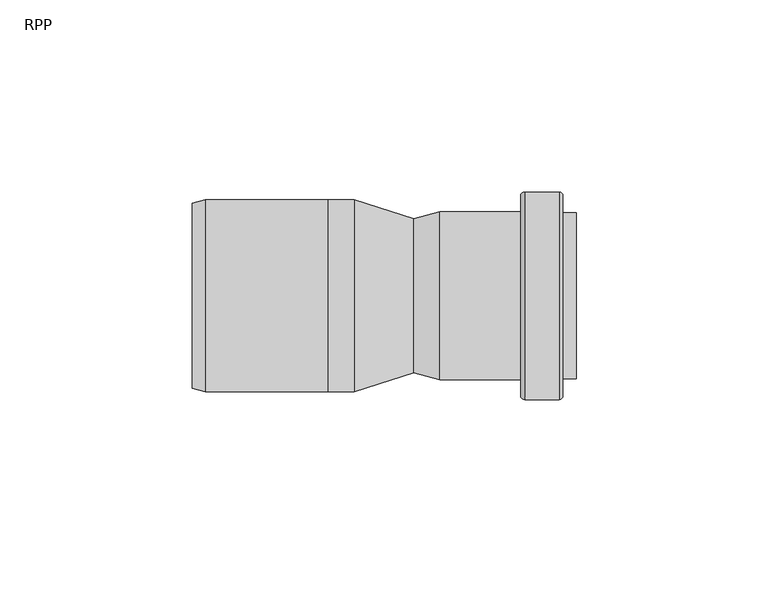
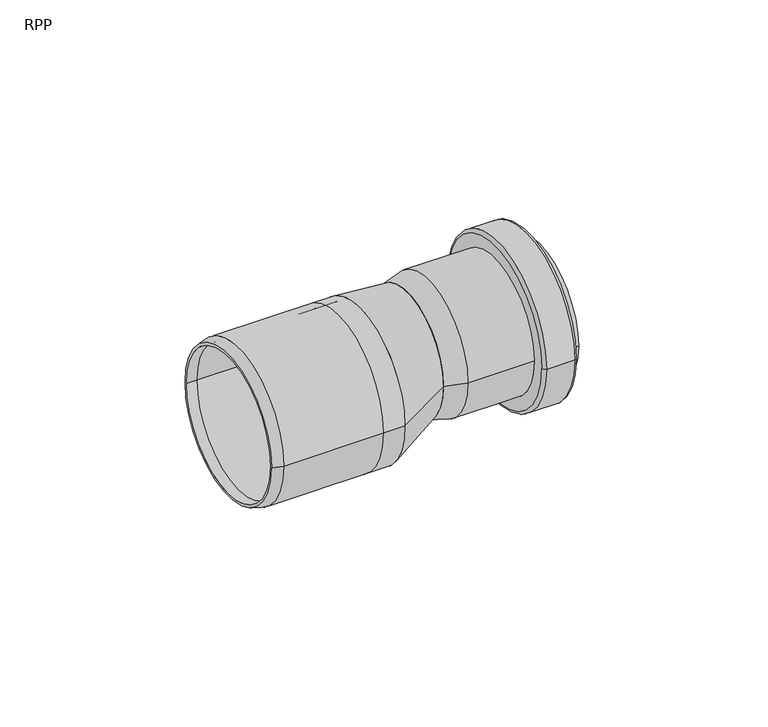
"""IFC4 building model written with IfcOpenShell, lengths in millimetres: pipe fitting geometry, RAUPIANO PLUS Reducer : RPP."""

from ifc_helpers import new_model, si_unit, point, frame, origin, place, context, project, spatial, polyline, circle_curve, ellipse_curve, trimmed, source, transform, mapped, element, save
from ifc_brep_helpers import plane_surface, cylinder_surface, revolved_surface, spline_surface, advanced_brep


def rpp_9f24d9c4(model_context):
    return source(origin(), model_context, "Body", "AdvancedBrep", [
        advanced_brep(
        [(35.6, 21.8220545, 5.0), (35.6, -21.8220545, 5.0), (14.5, -21.8220545, 5.0), (14.5, 21.8220545, 5.0), (50.0, 21.6076952, 5.0), (50.0, -21.6076952, 5.0), (46.6, -21.6076952, 5.0), (46.6, 21.6076952, 5.0), (46.6, 20.0220545, 5.0), (46.6, -20.0220545, 5.0), (50.0, -20.0220545, 5.0), (50.0, 20.0220545, 5.0), (14.5, 20.0220545, 5.0), (14.5, -20.0220545, 5.0), (7.7, 18.2, 5.0), (7.7, -18.2, 5.0), (7.7, -20.0, 5.0), (7.7, 20.0, 5.0), (36.6, 27.0220545, 5.0), (36.6, -27.0220545, 5.0), (35.6, -26.0220545, 5.0), (35.6, 26.0220545, 5.0), (45.6, 27.0220545, 5.0), (45.6, -27.0220545, 5.0), (46.6, 26.0220545, 5.0), (46.6, -26.0220545, 5.0)],
        [
            (0, 1, circle_curve(frame((35.6, 0.0, 5.0), z_axis=(-1.0, 0.0, 0.0), x_axis=(0.0, -1.0, 0.0)), 21.8220545)),
            (1, 2),
            (2, 3, circle_curve(frame((14.5, 0.0, 5.0), z_axis=(1.0, 0.0, 0.0), x_axis=(0.0, -1.0, 0.0)), 21.8220545)),
            (3, 0),
            (4, 5, circle_curve(frame((50.0, 0.0, 5.0), z_axis=(-1.0, 0.0, 0.0), x_axis=(0.0, -1.0, 0.0)), 21.6076952)),
            (5, 6),
            (6, 7, circle_curve(frame((46.6, 0.0, 5.0), z_axis=(1.0, 0.0, 0.0), x_axis=(0.0, -1.0, 0.0)), 21.6076952)),
            (7, 4),
            (8, 9, circle_curve(frame((46.6, 0.0, 5.0), z_axis=(-1.0, 0.0, 0.0), x_axis=(0.0, -1.0, 0.0)), 20.0220545)),
            (9, 10),
            (10, 11, circle_curve(frame((50.0, 0.0, 5.0), z_axis=(1.0, 0.0, 0.0), x_axis=(0.0, -1.0, 0.0)), 20.0220545)),
            (11, 8),
            (12, 13, circle_curve(frame((14.5, 0.0, 5.0), z_axis=(-1.0, 0.0, 0.0), x_axis=(0.0, -1.0, 0.0)), 20.0220545)),
            (13, 9),
            (8, 12),
            (14, 15, circle_curve(frame((7.7, 0.0, 5.0), z_axis=(-1.0, 0.0, 0.0), x_axis=(0.0, -1.0, 0.0)), 18.2)),
            (15, 13),
            (12, 14),
            (2, 16),
            (16, 17, circle_curve(frame((7.7, 0.0, 5.0), z_axis=(1.0, 0.0, 0.0), x_axis=(0.0, -1.0, 0.0)), 20.0)),
            (17, 3),
            (1, 0, circle_curve(frame((35.6, 0.0, 5.0), z_axis=(-1.0, 0.0, 0.0), x_axis=(0.0, 1.0, 0.0)), 21.8220545)),
            (3, 2, circle_curve(frame((14.5, 0.0, 5.0), z_axis=(1.0, 0.0, 0.0), x_axis=(0.0, 1.0, 0.0)), 21.8220545)),
            (5, 4, circle_curve(frame((50.0, 0.0, 5.0), z_axis=(-1.0, 0.0, 0.0), x_axis=(0.0, 1.0, 0.0)), 21.6076952)),
            (7, 6, circle_curve(frame((46.6, 0.0, 5.0), z_axis=(1.0, 0.0, 0.0), x_axis=(0.0, 1.0, 0.0)), 21.6076952)),
            (10, 11, circle_curve(frame((50.0, 0.0, 5.0), z_axis=(-1.0, 0.0, 0.0), x_axis=(0.0, 1.0, 0.0)), 20.0220545)),
            (9, 8, circle_curve(frame((46.6, 0.0, 5.0), z_axis=(-1.0, 0.0, 0.0), x_axis=(0.0, 1.0, 0.0)), 20.0220545)),
            (13, 12, circle_curve(frame((14.5, 0.0, 5.0), z_axis=(-1.0, 0.0, 0.0), x_axis=(0.0, 1.0, 0.0)), 20.0220545)),
            (15, 14, circle_curve(frame((7.7, 0.0, 5.0), z_axis=(-1.0, 0.0, 0.0), x_axis=(0.0, 1.0, 0.0)), 18.2)),
            (17, 16, circle_curve(frame((7.7, 0.0, 5.0), z_axis=(1.0, 0.0, 0.0), x_axis=(0.0, 1.0, 0.0)), 20.0)),
            (18, 19, circle_curve(frame((36.6, 0.0, 5.0), z_axis=(-1.0, 0.0, 0.0), x_axis=(0.0, -1.0, 0.0)), 27.0220545)),
            (19, 20, circle_curve(frame((36.6, -26.0220545, 5.0), z_axis=(0.0, 0.0, -1.0), x_axis=(1.0, 0.0, 0.0)), 1.0)),
            (20, 21, circle_curve(frame((35.6, 0.0, 5.0), z_axis=(1.0, 0.0, 0.0), x_axis=(0.0, -1.0, 0.0)), 26.0220545)),
            (21, 18, circle_curve(frame((36.6, 26.0220545, 5.0), z_axis=(0.0, 0.0, -1.0), x_axis=(1.0, 0.0, 0.0)), 1.0)),
            (22, 23, circle_curve(frame((45.6, 0.0, 5.0), z_axis=(-1.0, 0.0, 0.0), x_axis=(0.0, -1.0, 0.0)), 27.0220545)),
            (23, 19),
            (18, 22),
            (24, 25, circle_curve(frame((46.6, 0.0, 5.0), z_axis=(-1.0, 0.0, 0.0), x_axis=(0.0, -1.0, 0.0)), 26.0220545)),
            (25, 23, circle_curve(frame((45.6, -26.0220545, 5.0), z_axis=(0.0, 0.0, -1.0), x_axis=(1.0, 0.0, 0.0)), 1.0)),
            (22, 24, circle_curve(frame((45.6, 26.0220545, 5.0), z_axis=(0.0, 0.0, -1.0), x_axis=(1.0, 0.0, 0.0)), 1.0)),
            (20, 21, circle_curve(frame((35.6, 0.0, 5.0), z_axis=(-1.0, 0.0, 0.0), x_axis=(0.0, 1.0, 0.0)), 26.0220545)),
            (19, 18, circle_curve(frame((36.6, 0.0, 5.0), z_axis=(-1.0, 0.0, 0.0), x_axis=(0.0, 1.0, 0.0)), 27.0220545)),
            (23, 22, circle_curve(frame((45.6, 0.0, 5.0), z_axis=(-1.0, 0.0, 0.0), x_axis=(0.0, 1.0, 0.0)), 27.0220545)),
            (25, 24, circle_curve(frame((46.6, 0.0, 5.0), z_axis=(-1.0, 0.0, 0.0), x_axis=(0.0, 1.0, 0.0)), 26.0220545)),
        ],
        [
            cylinder_surface(frame((0.0, 0.0, 5.0), z_axis=(1.0, 0.0, 0.0), x_axis=(0.0, -1.0, 0.0)), 21.8220545),
            cylinder_surface(frame((0.0, 0.0, 5.0), z_axis=(1.0, 0.0, 0.0), x_axis=(0.0, -1.0, 0.0)), 21.6076952),
            revolved_surface(polyline([(50.0, -20.0220545, 5.0), (46.6, -20.0220545, 5.0)]), (0.0, 0.0, 5.0), (1.0, 0.0, 0.0)),
            revolved_surface(polyline([(46.6, -20.0220545, 5.0), (14.5, -20.0220545, 5.0)]), (0.0, 0.0, 5.0), (1.0, 0.0, 0.0)),
            revolved_surface(polyline([(14.5, -20.0220545, 5.0), (7.7, -18.2, 5.0)]), (0.0, 0.0, 5.0), (1.0, 0.0, 0.0)),
            revolved_surface(polyline([(7.7, -20.0, 5.0), (14.5, -21.8220545, 5.0)]), (0.0, 0.0, 5.0), (1.0, 0.0, 0.0)),
            cylinder_surface(frame((0.0, 0.0, 5.0), z_axis=(1.0, 0.0, 0.0), x_axis=(0.0, 1.0, 0.0)), 21.8220545),
            cylinder_surface(frame((0.0, 0.0, 5.0), z_axis=(1.0, 0.0, 0.0), x_axis=(0.0, 1.0, 0.0)), 21.6076952),
            plane_surface(frame((50.0, 0.0, 5.0), z_axis=(1.0, 0.0, 0.0), x_axis=(0.0, 1.0, 0.0))),
            revolved_surface(polyline([(50.0, 20.0220545, 5.0), (46.6, 20.0220545, 5.0)]), (0.0, 0.0, 5.0), (1.0, 0.0, 0.0)),
            revolved_surface(polyline([(46.6, 20.0220545, 5.0), (14.5, 20.0220545, 5.0)]), (0.0, 0.0, 5.0), (1.0, 0.0, 0.0)),
            revolved_surface(polyline([(14.5, 20.0220545, 5.0), (7.7, 18.2, 5.0)]), (0.0, 0.0, 5.0), (1.0, 0.0, 0.0)),
            revolved_surface(polyline([(7.7, 20.0, 5.0), (14.5, 21.8220545, 5.0)]), (0.0, 0.0, 5.0), (1.0, 0.0, 0.0)),
            revolved_surface(trimmed(ellipse_curve(frame((36.6, -26.0220545, 5.0), z_axis=(0.0, 0.0, 1.0), x_axis=(1.0, 0.0, 0.0)), 1.0, 1.0), [point((35.6, -26.0220545, 5.0))], [point((36.6, -27.0220545, 5.0))], True, "CARTESIAN"), (0.0, 0.0, 5.0), (1.0, 0.0, 0.0)),
            cylinder_surface(frame((0.0, 0.0, 5.0), z_axis=(1.0, 0.0, 0.0), x_axis=(0.0, -1.0, 0.0)), 27.0220545),
            revolved_surface(trimmed(ellipse_curve(frame((45.6, -26.0220545, 5.0), z_axis=(0.0, 0.0, 1.0), x_axis=(1.0, 0.0, 0.0)), 1.0, 1.0), [point((45.6, -27.0220545, 5.0))], [point((46.6, -26.0220545, 5.0))], True, "CARTESIAN"), (0.0, 0.0, 5.0), (1.0, 0.0, 0.0)),
            plane_surface(frame((35.6, 0.0, 5.0), z_axis=(-1.0, 0.0, 0.0), x_axis=(0.0, 1.0, 0.0))),
            revolved_surface(trimmed(ellipse_curve(frame((36.6, 26.0220545, 5.0), z_axis=(0.0, 0.0, -1.0), x_axis=(1.0, 0.0, 0.0)), 1.0, 1.0), [point((35.6, 26.0220545, 5.0))], [point((36.6, 27.0220545, 5.0))], True, "CARTESIAN"), (0.0, 0.0, 5.0), (1.0, 0.0, 0.0)),
            cylinder_surface(frame((0.0, 0.0, 5.0), z_axis=(1.0, 0.0, 0.0), x_axis=(0.0, 1.0, 0.0)), 27.0220545),
            revolved_surface(trimmed(ellipse_curve(frame((45.6, 26.0220545, 5.0), z_axis=(0.0, 0.0, -1.0), x_axis=(1.0, 0.0, 0.0)), 1.0, 1.0), [point((45.6, 27.0220545, 5.0))], [point((46.6, 26.0220545, 5.0))], True, "CARTESIAN"), (0.0, 0.0, 5.0), (1.0, 0.0, 0.0)),
            plane_surface(frame((46.6, 0.0, 5.0), z_axis=(1.0, 0.0, 0.0), x_axis=(0.0, 1.0, 0.0))),
            plane_surface(frame((7.7, 0.0, 5.0), z_axis=(-1.0, 0.0, 0.0), x_axis=(0.0, 1.0, 0.0))),
        ],
        [
            (0, [[1, 2, 3, 4]]),
            (1, [[5, 6, 7, 8]]),
            (2, [[9, 10, 11, 12]]),
            (3, [[13, 14, -9, 15]]),
            (4, [[16, 17, -13, 18]]),
            (5, [[-3, 19, 20, 21]]),
            (6, [[22, -4, 23, -2]]),
            (7, [[24, -8, 25, -6]]),
            (8, [[-24, -5], [26, -11]]),
            (9, [[27, -12, -26, -10]]),
            (10, [[28, -15, -27, -14]]),
            (11, [[29, -18, -28, -17]]),
            (12, [[-23, -21, 30, -19]]),
            (13, [[31, 32, 33, 34]]),
            (14, [[35, 36, -31, 37]]),
            (15, [[38, 39, -35, 40]]),
            (16, [[41, -33], [-22, -1]]),
            (17, [[42, -34, -41, -32]]),
            (18, [[43, -37, -42, -36]]),
            (19, [[44, -40, -43, -39]]),
            (20, [[-44, -38], [-25, -7]]),
            (21, [[-30, -20], [-29, -16]]),
        ],
    ),
        advanced_brep(
        [(-7.7, 25.0, 0.0), (-7.7, -25.0, 0.0), (-14.5, -25.0, 0.0), (-14.5, 25.0, 0.0), (-14.5, 23.2, 0.0), (-14.5, -23.2, 0.0), (-7.7, -23.2, 0.0), (-7.7, 23.2, 0.0), (-46.6, 23.2, 0.0), (-46.6, -23.2, 0.0), (-50.0, 23.2, 0.0), (-50.0, -23.2, 0.0), (-46.6, 25.0, 0.0), (-46.6, -25.0, 0.0), (-50.0, -24.0889727, 0.0), (-50.0, 24.0889727, 0.0)],
        [
            (0, 1, circle_curve(frame((-7.7, 0.0, 0.0), z_axis=(-1.0, 0.0, 0.0), x_axis=(0.0, -1.0, 0.0)), 25.0)),
            (1, 2),
            (2, 3, circle_curve(frame((-14.5, 0.0, 0.0), z_axis=(1.0, 0.0, 0.0), x_axis=(0.0, -1.0, 0.0)), 25.0)),
            (3, 0),
            (4, 5, circle_curve(frame((-14.5, 0.0, 0.0), z_axis=(-1.0, 0.0, 0.0), x_axis=(0.0, -1.0, 0.0)), 23.2)),
            (5, 6),
            (6, 7, circle_curve(frame((-7.7, 0.0, 0.0), z_axis=(1.0, 0.0, 0.0), x_axis=(0.0, -1.0, 0.0)), 23.2)),
            (7, 4),
            (8, 9, circle_curve(frame((-46.6, 0.0, 0.0), z_axis=(-1.0, 0.0, 0.0), x_axis=(0.0, -1.0, 0.0)), 23.2)),
            (9, 5),
            (4, 8),
            (10, 11, circle_curve(frame((-50.0, 0.0, 0.0), z_axis=(-1.0, 0.0, 0.0), x_axis=(0.0, -1.0, 0.0)), 23.2)),
            (11, 9),
            (8, 10),
            (12, 13, circle_curve(frame((-46.6, 0.0, 0.0), z_axis=(-1.0, 0.0, 0.0), x_axis=(0.0, -1.0, 0.0)), 25.0)),
            (13, 14),
            (14, 15, circle_curve(frame((-50.0, 0.0, 0.0), z_axis=(1.0, 0.0, 0.0), x_axis=(0.0, -1.0, 0.0)), 24.0889727)),
            (15, 12),
            (2, 13),
            (12, 3),
            (1, 0, circle_curve(frame((-7.7, 0.0, 0.0), z_axis=(-1.0, 0.0, 0.0), x_axis=(0.0, 1.0, 0.0)), 25.0)),
            (3, 2, circle_curve(frame((-14.5, 0.0, 0.0), z_axis=(1.0, 0.0, 0.0), x_axis=(0.0, 1.0, 0.0)), 25.0)),
            (6, 7, circle_curve(frame((-7.7, 0.0, 0.0), z_axis=(-1.0, 0.0, 0.0), x_axis=(0.0, 1.0, 0.0)), 23.2)),
            (5, 4, circle_curve(frame((-14.5, 0.0, 0.0), z_axis=(-1.0, 0.0, 0.0), x_axis=(0.0, 1.0, 0.0)), 23.2)),
            (9, 8, circle_curve(frame((-46.6, 0.0, 0.0), z_axis=(-1.0, 0.0, 0.0), x_axis=(0.0, 1.0, 0.0)), 23.2)),
            (11, 10, circle_curve(frame((-50.0, 0.0, 0.0), z_axis=(-1.0, 0.0, 0.0), x_axis=(0.0, 1.0, 0.0)), 23.2)),
            (14, 15, circle_curve(frame((-50.0, 0.0, 0.0), z_axis=(-1.0, 0.0, 0.0), x_axis=(0.0, 1.0, 0.0)), 24.0889727)),
            (13, 12, circle_curve(frame((-46.6, 0.0, 0.0), z_axis=(-1.0, 0.0, 0.0), x_axis=(0.0, 1.0, 0.0)), 25.0)),
        ],
        [
            cylinder_surface(frame((0.0, 0.0, 0.0), z_axis=(1.0, 0.0, 0.0), x_axis=(0.0, -1.0, 0.0)), 25.0),
            revolved_surface(polyline([(-7.7, -23.2, 0.0), (-14.5, -23.2, 0.0)]), (0.0, 0.0, 0.0), (1.0, 0.0, 0.0)),
            revolved_surface(polyline([(-14.5, -23.2, 0.0), (-46.6, -23.2, 0.0)]), (0.0, 0.0, 0.0), (1.0, 0.0, 0.0)),
            revolved_surface(polyline([(-46.6, -23.2, 0.0), (-50.0, -23.2, 0.0)]), (0.0, 0.0, 0.0), (1.0, 0.0, 0.0)),
            revolved_surface(polyline([(-50.0, -24.0889727, 0.0), (-46.6, -25.0, 0.0)]), (0.0, 0.0, 0.0), (1.0, 0.0, 0.0)),
            cylinder_surface(frame((0.0, 0.0, 0.0), z_axis=(1.0, 0.0, 0.0), x_axis=(0.0, 1.0, 0.0)), 25.0),
            plane_surface(frame((-7.7, 0.0, 0.0), z_axis=(1.0, 0.0, 0.0), x_axis=(0.0, 1.0, 0.0))),
            revolved_surface(polyline([(-7.7, 23.2, 0.0), (-14.5, 23.2, 0.0)]), (0.0, 0.0, 0.0), (1.0, 0.0, 0.0)),
            revolved_surface(polyline([(-14.5, 23.2, 0.0), (-46.6, 23.2, 0.0)]), (0.0, 0.0, 0.0), (1.0, 0.0, 0.0)),
            revolved_surface(polyline([(-46.6, 23.2, 0.0), (-50.0, 23.2, 0.0)]), (0.0, 0.0, 0.0), (1.0, 0.0, 0.0)),
            plane_surface(frame((-50.0, 0.0, 0.0), z_axis=(-1.0, 0.0, 0.0), x_axis=(0.0, 1.0, 0.0))),
            revolved_surface(polyline([(-50.0, 24.0889727, 0.0), (-46.6, 25.0, 0.0)]), (0.0, 0.0, 0.0), (1.0, 0.0, 0.0)),
        ],
        [
            (0, [[1, 2, 3, 4]]),
            (1, [[5, 6, 7, 8]]),
            (2, [[9, 10, -5, 11]]),
            (3, [[12, 13, -9, 14]]),
            (4, [[15, 16, 17, 18]]),
            (0, [[-3, 19, -15, 20]]),
            (5, [[21, -4, 22, -2]]),
            (6, [[-21, -1], [23, -7]]),
            (7, [[24, -8, -23, -6]]),
            (8, [[25, -11, -24, -10]]),
            (9, [[26, -14, -25, -13]]),
            (10, [[27, -17], [-26, -12]]),
            (11, [[28, -18, -27, -16]]),
            (5, [[-22, -20, -28, -19]]),
        ],
    ),
        advanced_brep(
        [(7.7, -20.0, 5.0), (7.7, 20.0, 5.0), (-7.7, -25.0, 0.0), (-7.7, 25.0, 0.0)],
        [
            (0, 1, circle_curve(frame((7.7, 0.0, 5.0), z_axis=(1.0, 0.0, 0.0), x_axis=(0.0, 1.0, 0.0)), 20.0)),
            (1, 0, circle_curve(frame((7.7, 0.0, 5.0), z_axis=(1.0, 0.0, 0.0), x_axis=(0.0, 1.0, 0.0)), 20.0)),
            (2, 3, circle_curve(frame((-7.7, 0.0, 0.0), z_axis=(-1.0, 0.0, 0.0), x_axis=(0.0, 1.0, 0.0)), 25.0)),
            (3, 2, circle_curve(frame((-7.7, 0.0, 0.0), z_axis=(-1.0, 0.0, 0.0), x_axis=(0.0, 1.0, 0.0)), 25.0)),
            (3, 1),
            (0, 2),
        ],
        [
            plane_surface(frame((7.7, 0.0, 5.0), z_axis=(1.0, 0.0, 0.0), x_axis=(0.0, 0.0, -1.0))),
            plane_surface(frame((-7.7, 0.0, 0.0), z_axis=(-1.0, 0.0, 0.0), x_axis=(0.0, 0.0, -1.0))),
            spline_surface(2, 1, [[(-7.7, -25.0, 0.0), (7.7, -20.0, 5.0)], [(-7.7, -25.0, -25.0), (7.7, -20.0, -15.0)], [(-7.7, 0.0, -25.0), (7.7, 0.0, -15.0)], [(-7.7, 25.0, -25.0), (7.7, 20.0, -15.0)], [(-7.7, 25.0, 0.0), (7.7, 20.0, 5.0)]], [3, 2, 3], [2, 2], [0.0, 1.0, 2.0], [0.0, 1.0], weights=[[1.0, 1.0], [0.7071067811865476, 0.7071067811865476], [1.0, 1.0], [0.7071067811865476, 0.7071067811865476], [1.0, 1.0]]),
            spline_surface(2, 1, [[(-7.7, 25.0, 0.0), (7.7, 20.0, 5.0)], [(-7.7, 25.0, 25.0), (7.7, 20.0, 25.0)], [(-7.7, 0.0, 25.0), (7.7, 0.0, 25.0)], [(-7.7, -25.0, 25.0), (7.7, -20.0, 25.0)], [(-7.7, -25.0, 0.0), (7.7, -20.0, 5.0)]], [3, 2, 3], [2, 2], [0.0, 1.0, 2.0], [0.0, 1.0], weights=[[1.0, 1.0], [0.7071067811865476, 0.7071067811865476], [1.0, 1.0], [0.7071067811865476, 0.7071067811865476], [1.0, 1.0]]),
        ],
        [
            (0, [[1, 2]]),
            (1, [[3, 4]]),
            (2, [[-4, 5, -1, 6]]),
            (3, [[-3, -6, -2, -5]]),
        ],
    ),
    ])


if __name__ == "__main__":
    model = new_model("IFC4")
    model_context = context("Model", 3, world=origin())
    ifc_project = project(units=[si_unit("LENGTHUNIT", "METRE", prefix="MILLI")], contexts=[model_context])
    site = spatial("IfcSite", under=ifc_project)
    building = spatial("IfcBuilding", under=site)
    placement = place(None, origin())
    rpp_shape = rpp_9f24d9c4(model_context)
    element("IfcPipeFitting", 1, ObjectType="RAUPIANO PLUS Reducer : RPP", at=placement, inside=building, context=model_context, shape_type="MappedRepresentation", body=[
        mapped(rpp_shape, transform((0.0, 0.0, 0.0), x_axis=(1.0, 0.0, 0.0), y_axis=(0.0, 1.0, 0.0), z_axis=(0.0, 0.0, 1.0))),
    ])
    save(model, "model.ifc")
